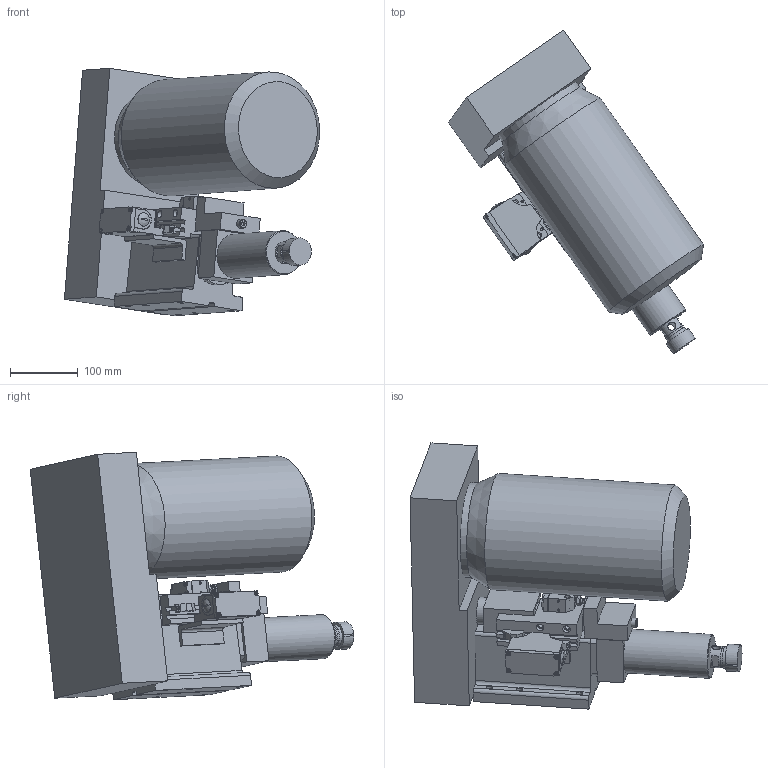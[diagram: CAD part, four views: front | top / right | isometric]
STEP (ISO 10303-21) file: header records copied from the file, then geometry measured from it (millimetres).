
FILE_DESCRIPTION((''),'2;1');
FILE_NAME('C:\VaultWork\Zeichnungen\Maßblätter\Gewindemaschinen\G6-50\B4243-2-3 Maßblatt G6-50 mit U-Laterne und Spannzangenaufnahme.stp','2009-06-24T11:15:08',('Test'),(''),'Autodesk Inventor 2008','Autodesk Inventor 2008','');
FILE_SCHEMA(('AUTOMOTIVE_DESIGN { 1 0 10303 214 1 1 1 1 }'));
Length unit declared in the file: millimetre
Products named in the file (1): B4243-2-3 Maßblatt G6-50  mit U-Laterne und Spannzangenaufnahme
Bounding box: 376.65 x 477.78 x 365.34 mm (x, y, z)
Volume: 13313530.3 mm3; surface area: 618447.1 mm2
Topology: 3 solids, 3 shells, 512 faces, 1334 edges, 868 vertices
Faces by surface type: plane 348, cylinder 91, cone 35, torus 18, bspline 16, sphere 4
Full cylindrical faces by diameter (mm): 3.8 x2, 4 x2, 4.3 x2, 4.917 x2, 5.9 x2, 5.97 x1, 6 x3, 6.6 x2, 7.323 x1, 8 x6, 9.98 x2, 10 x2, 11.4 x1, 13 x1, 16 x1, 20 x2, 30.5 x1, 32 x2, 35 x1, 40 x1, 65 x1, 140 x1, 172 x1
Entity records: 16290 total; most frequent: CARTESIAN_POINT 3658, DIRECTION 2444, ORIENTED_EDGE 2440, EDGE_CURVE 1220, VERTEX_POINT 832, AXIS2_PLACEMENT_3D 816, VECTOR 812, LINE 812
